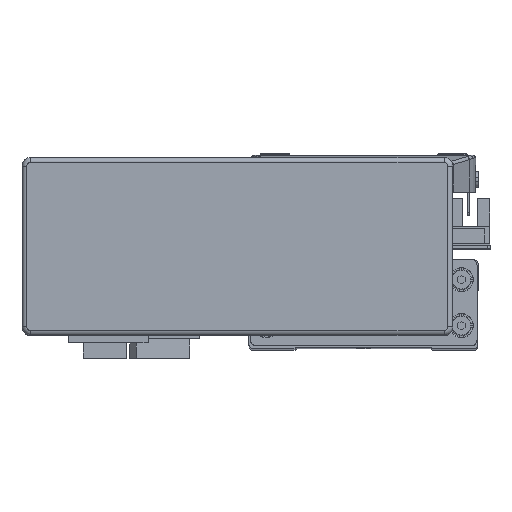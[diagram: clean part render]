
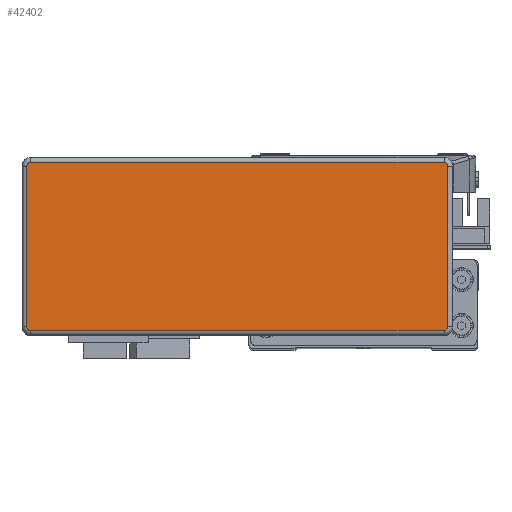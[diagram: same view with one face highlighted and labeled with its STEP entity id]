
A CAD part, top view. The second image highlights one B-rep face of the part: STEP entity #42402.
In plain terms, the highlighted planar face has unit normal (0, 0, 1) as drawn and (0, 0, -1) by its records, which use the part's own axes.
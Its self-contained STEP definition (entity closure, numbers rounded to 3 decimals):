
#1666 = ORIENTED_EDGE ( 'NONE', *, *, #32240, .T. ) ;
#1706 = ORIENTED_EDGE ( 'NONE', *, *, #32164, .T. ) ;
#1713 = ORIENTED_EDGE ( 'NONE', *, *, #32205, .T. ) ;
#1723 = ORIENTED_EDGE ( 'NONE', *, *, #32198, .T. ) ;
#1724 = ORIENTED_EDGE ( 'NONE', *, *, #32155, .T. ) ;
#1770 = ORIENTED_EDGE ( 'NONE', *, *, #32136, .T. ) ;
#1790 = ORIENTED_EDGE ( 'NONE', *, *, #32211, .T. ) ;
#1808 = ORIENTED_EDGE ( 'NONE', *, *, #32293, .T. ) ;
#7066 = DIRECTION ( 'NONE',  ( 0., 0., -1. ) ) ;
#7074 = CARTESIAN_POINT ( 'NONE',  ( 71.995, -27.995, -32.2 ) ) ;
#7084 = DIRECTION ( 'NONE',  ( 1., 0., 0. ) ) ;
#7114 = DIRECTION ( 'NONE',  ( 0., 0., -1. ) ) ;
#7116 = CARTESIAN_POINT ( 'NONE',  ( -71.995, -27.995, -32.2 ) ) ;
#7117 = DIRECTION ( 'NONE',  ( 1., 0., 0. ) ) ;
#7134 = CARTESIAN_POINT ( 'NONE',  ( -71.995, 27.995, -32.2 ) ) ;
#7137 = DIRECTION ( 'NONE',  ( 0., 0., -1. ) ) ;
#7138 = DIRECTION ( 'NONE',  ( 1., 0., 0. ) ) ;
#7144 = CARTESIAN_POINT ( 'NONE',  ( -73.295, -27.995, -32.2 ) ) ;
#7157 = CARTESIAN_POINT ( 'NONE',  ( 71.995, 27.995, -32.2 ) ) ;
#7162 = DIRECTION ( 'NONE',  ( 1., 0., 0. ) ) ;
#7169 = DIRECTION ( 'NONE',  ( 0., 0., -1. ) ) ;
#7176 = DIRECTION ( 'NONE',  ( 0., 1., 0. ) ) ;
#7177 = CARTESIAN_POINT ( 'NONE',  ( 71.995, 29.295, -32.2 ) ) ;
#7179 = DIRECTION ( 'NONE',  ( 1., 0., 0. ) ) ;
#7204 = CARTESIAN_POINT ( 'NONE',  ( 71.995, -29.295, -32.2 ) ) ;
#7213 = DIRECTION ( 'NONE',  ( -1., 0., 0. ) ) ;
#7276 = DIRECTION ( 'NONE',  ( 0., -1., 0. ) ) ;
#7281 = CARTESIAN_POINT ( 'NONE',  ( 73.295, -27.995, -32.2 ) ) ;
#8991 = AXIS2_PLACEMENT_3D ( 'NONE', #7116, #7137, #7138 ) ;
#9001 = AXIS2_PLACEMENT_3D ( 'NONE', #7134, #7114, #7117 ) ;
#9029 = AXIS2_PLACEMENT_3D ( 'NONE', #7074, #7066, #7084 ) ;
#9030 = AXIS2_PLACEMENT_3D ( 'NONE', #7157, #7169, #7162 ) ;
#10395 = FACE_OUTER_BOUND ( 'NONE', #23556, .T. ) ;
#14866 = CARTESIAN_POINT ( 'NONE',  ( -71.995, 29.295, -32.2 ) ) ;
#14886 = CARTESIAN_POINT ( 'NONE',  ( 71.995, -29.295, -32.2 ) ) ;
#14895 = CARTESIAN_POINT ( 'NONE',  ( -71.995, -29.295, -32.2 ) ) ;
#14923 = CARTESIAN_POINT ( 'NONE',  ( 73.295, -27.995, -32.2 ) ) ;
#14925 = CARTESIAN_POINT ( 'NONE',  ( -73.295, 27.995, -32.2 ) ) ;
#14937 = CARTESIAN_POINT ( 'NONE',  ( 73.295, 27.995, -32.2 ) ) ;
#14963 = CARTESIAN_POINT ( 'NONE',  ( -73.295, -27.995, -32.2 ) ) ;
#15046 = CARTESIAN_POINT ( 'NONE',  ( 71.995, 29.295, -32.2 ) ) ;
#23556 = EDGE_LOOP ( 'NONE', ( #1808, #1770, #1666, #1724, #1713, #1706, #1723, #1790 ) ) ;
#32136 = EDGE_CURVE ( 'NONE', #44273, #44262, #35437, .T. ) ;
#32155 = EDGE_CURVE ( 'NONE', #44249, #44315, #35478, .T. ) ;
#32164 = EDGE_CURVE ( 'NONE', #44278, #44246, #35442, .T. ) ;
#32198 = EDGE_CURVE ( 'NONE', #44246, #44404, #35380, .T. ) ;
#32205 = EDGE_CURVE ( 'NONE', #44315, #44278, #35487, .T. ) ;
#32211 = EDGE_CURVE ( 'NONE', #44404, #44297, #35542, .T. ) ;
#32240 = EDGE_CURVE ( 'NONE', #44262, #44249, #35590, .T. ) ;
#32293 = EDGE_CURVE ( 'NONE', #44297, #44273, #35627, .T. ) ;
#35380 = LINE ( 'NONE', #7177, #35387 ) ;
#35387 = VECTOR ( 'NONE', #7179, 1000. ) ;
#35437 = CIRCLE ( 'NONE', #9029, 1.3 ) ;
#35442 = CIRCLE ( 'NONE', #9001, 1.3 ) ;
#35478 = CIRCLE ( 'NONE', #8991, 1.3 ) ;
#35487 = LINE ( 'NONE', #7144, #35575 ) ;
#35493 = VECTOR ( 'NONE', #7213, 1000. ) ;
#35542 = CIRCLE ( 'NONE', #9030, 1.3 ) ;
#35575 = VECTOR ( 'NONE', #7176, 1000. ) ;
#35590 = LINE ( 'NONE', #7204, #35493 ) ;
#35627 = LINE ( 'NONE', #7281, #35642 ) ;
#35642 = VECTOR ( 'NONE', #7276, 1000. ) ;
#37525 = AXIS2_PLACEMENT_3D ( 'NONE', #38983, #38964, #38973 ) ;
#38964 = DIRECTION ( 'NONE',  ( 0., 0., 1. ) ) ;
#38973 = DIRECTION ( 'NONE',  ( 1., 0., 0. ) ) ;
#38976 = PLANE ( 'NONE',  #37525 ) ;
#38983 = CARTESIAN_POINT ( 'NONE',  ( 71.995, -27.995, -32.2 ) ) ;
#42402 = ADVANCED_FACE ( 'NONE', ( #10395 ), #38976, .F. ) ;
#44246 = VERTEX_POINT ( 'NONE', #14866 ) ;
#44249 = VERTEX_POINT ( 'NONE', #14895 ) ;
#44262 = VERTEX_POINT ( 'NONE', #14886 ) ;
#44273 = VERTEX_POINT ( 'NONE', #14923 ) ;
#44278 = VERTEX_POINT ( 'NONE', #14925 ) ;
#44297 = VERTEX_POINT ( 'NONE', #14937 ) ;
#44315 = VERTEX_POINT ( 'NONE', #14963 ) ;
#44404 = VERTEX_POINT ( 'NONE', #15046 ) ;
